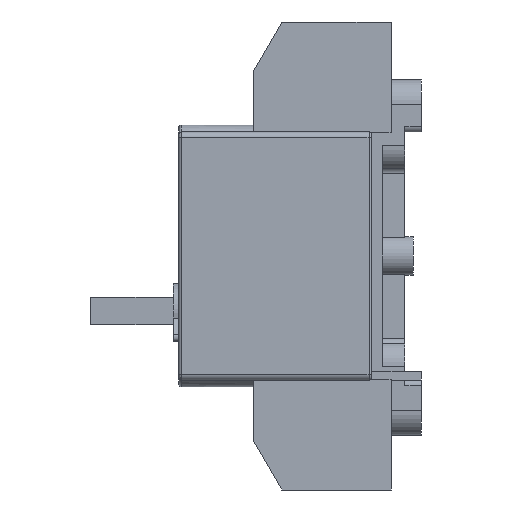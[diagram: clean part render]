
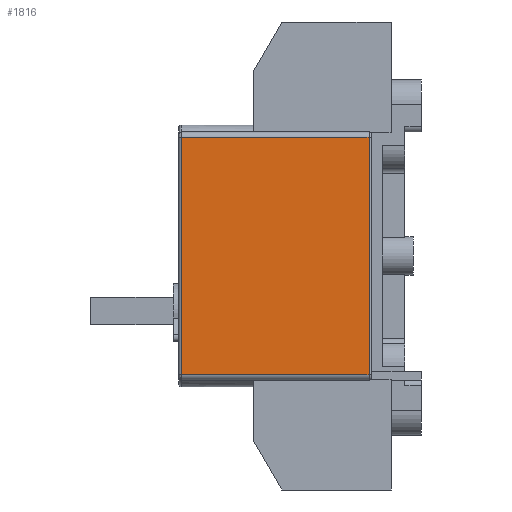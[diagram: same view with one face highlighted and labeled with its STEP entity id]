
A CAD part, left-side view. The second image highlights one B-rep face of the part: STEP entity #1816.
In plain terms, the highlighted planar face has unit normal (-1, 0, 0).
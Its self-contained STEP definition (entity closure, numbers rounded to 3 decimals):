
#279=FACE_OUTER_BOUND('',#2557,.T.);
#654=LINE('',#9329,#1206);
#814=LINE('',#10082,#1366);
#821=LINE('',#10134,#1373);
#822=LINE('',#10136,#1374);
#1206=VECTOR('',#7540,1.);
#1366=VECTOR('',#8194,1.);
#1373=VECTOR('',#8219,1.);
#1374=VECTOR('',#8222,1.);
#1816=ADVANCED_FACE('',(#279),#2003,.F.);
#2003=PLANE('',#6543);
#2557=EDGE_LOOP('',(#4042,#4043,#4044,#4045));
#4042=ORIENTED_EDGE('',*,*,#5674,.F.);
#4043=ORIENTED_EDGE('',*,*,#5660,.T.);
#4044=ORIENTED_EDGE('',*,*,#5675,.T.);
#4045=ORIENTED_EDGE('',*,*,#5354,.T.);
#4642=VERTEX_POINT('',#9319);
#4646=VERTEX_POINT('',#9328);
#4844=VERTEX_POINT('',#10049);
#4848=VERTEX_POINT('',#10081);
#5354=EDGE_CURVE('',#4642,#4646,#654,.T.);
#5660=EDGE_CURVE('',#4844,#4848,#814,.T.);
#5674=EDGE_CURVE('',#4844,#4646,#821,.T.);
#5675=EDGE_CURVE('',#4848,#4642,#822,.T.);
#6543=AXIS2_PLACEMENT_3D('',#10137,#8223,#8224);
#7540=DIRECTION('',(0.,0.,1.));
#8194=DIRECTION('',(0.,0.,-1.));
#8219=DIRECTION('',(0.,-1.,0.));
#8222=DIRECTION('',(0.,-1.,0.));
#8223=DIRECTION('',(1.,0.,0.));
#8224=DIRECTION('',(0.,0.,-1.));
#9319=CARTESIAN_POINT('',(-41.,1.,-43.));
#9328=CARTESIAN_POINT('',(-41.,1.,43.));
#9329=CARTESIAN_POINT('',(-41.,1.,-43.));
#10049=CARTESIAN_POINT('',(-41.,69.,43.));
#10081=CARTESIAN_POINT('',(-41.,69.,-43.));
#10082=CARTESIAN_POINT('',(-41.,69.,-43.));
#10134=CARTESIAN_POINT('',(-41.,35.,43.));
#10136=CARTESIAN_POINT('',(-41.,35.,-43.));
#10137=CARTESIAN_POINT('',(-41.,35.,-43.));
